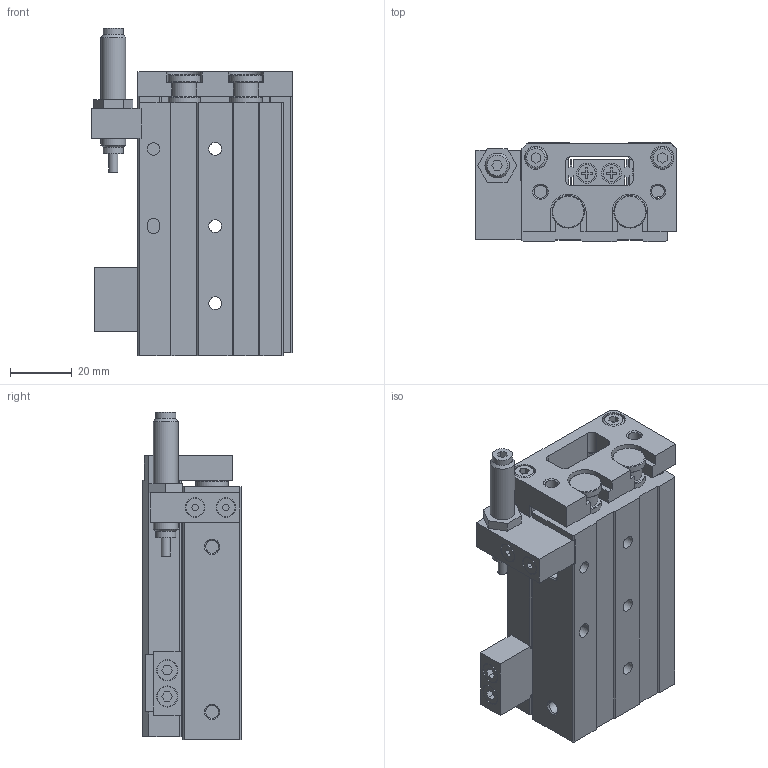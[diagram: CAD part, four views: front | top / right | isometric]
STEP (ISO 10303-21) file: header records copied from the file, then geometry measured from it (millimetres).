
FILE_DESCRIPTION( ( 'STEP AP214' ), '1' );
FILE_NAME( 'C:/Users/EMC02301/Desktop/ELS图纸/ELS12X40-S-BS.stp', '2026-08-05T05:54:30', ( 'License CC BY-ND 4.0' ), ( 'CADENAS' ), ' ', 'PARTsolutions', ' ' );
FILE_SCHEMA( ( 'AUTOMOTIVE_DESIGN { 1 0 10303 214 1 1 1 1 }' ) );
Length unit declared in the file: millimetre
Products named in the file (5): ELS12X40-S-BS(0)(); _ELS12X40-S-BS(HX-07)(HX-07-1)(0-body); _ELS12X40-S-BS(0-rod); _FJ-ELS12-BS; _FJ-ELS12-BS-(BS)
Assembly tree (4 placements, depth 2):
  ELS12X40-S-BS(0)()
    _ELS12X40-S-BS(HX-07)(HX-07-1)(0-body)
    _ELS12X40-S-BS(0-rod)
    _FJ-ELS12-BS
    _FJ-ELS12-BS-(BS)
Bounding box: 65 x 32 x 106.1 mm (x, y, z)
Volume: 123264.2 mm3; surface area: 52366.6 mm2
Topology: 4 solids, 4 shells, 497 faces, 1215 edges, 799 vertices
Faces by surface type: plane 376, cylinder 93, cone 26, torus 2
Full cylindrical faces by diameter (mm): 2.9 x1, 3.242 x12, 4 x2, 4.134 x7, 4.2 x3, 5.5 x8, 5.933 x2, 6 x4, 6.333 x2, 6.433 x2, 6.5 x8, 6.6 x2, 6.833 x2, 7 x2, 7.5 x2, 8 x2, 9 x6, 10.5 x6, 12 x4, 15.1 x2
Entity records: 17953 total; most frequent: CARTESIAN_POINT 2383, DIRECTION 2321, ORIENTED_EDGE 2190, EDGE_CURVE 1095, LINE 873, VECTOR 873, VERTEX_POINT 786, AXIS2_PLACEMENT_3D 724
